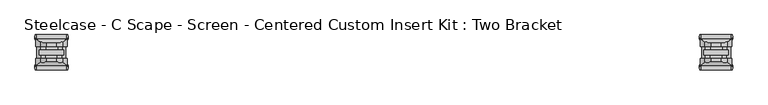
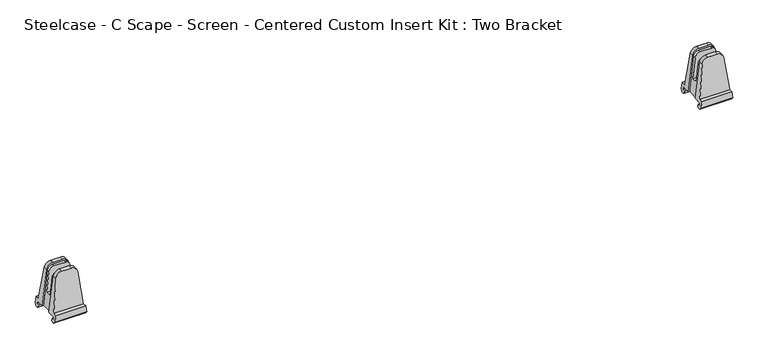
"""IFC4 building model written with IfcOpenShell, lengths in millimetres: furniture geometry, Steelcase - C Scape - Screen - Centered Custom Insert Kit : Two Bracket."""

from ifc_helpers import new_model, si_unit, frame, origin, place, context, project, spatial, circle_curve, ellipse_curve, source, transform, mapped, element, save
from ifc_brep_helpers import plane_surface, cylinder_surface, advanced_brep


def steelcase_c_scape_screen_centered_custom_insert_kit_two_89955183(model_context):
    return source(origin(), model_context, "Body", "AdvancedBrep", [
        advanced_brep(
        [(1133.6649563, -3.1752569, 793.5976353), (1141.2687419, -3.1752569, 793.5976353), (1148.9149668, -3.1752569, 793.5976353), (1148.9149668, 3.17474, 793.5976353), (1141.2687419, 3.17474, 793.5976353), (1133.6649563, 3.17474, 793.5976353), (1123.3537645, -3.1752569, 784.4759275), (1115.9101946, -3.1752569, 723.9), (1117.9940991, -3.1752569, 723.9), (1124.2526704, -3.1752569, 783.4463283), (1132.2545253, -3.1752569, 790.6512308), (1151.8524021, -3.1752569, 790.6512308), (1158.1679246, -3.1752569, 784.9620449), (1164.5570489, -3.1752569, 723.9), (1166.6697285, -3.1752569, 723.9), (1159.2261585, -3.1752569, 784.4759275), (1115.9101946, 10.1600734, 723.9), (1166.6697285, 10.1600734, 723.9), (1164.5570489, -22.2252569, 723.9), (1166.6697285, -22.2250614, 723.9), (1166.6697285, -35.5603917, 723.9), (1115.9101946, -35.5603917, 723.9), (1115.9101946, -22.2250614, 723.9), (1117.9940991, -22.2250614, 723.9), (1115.4415467, 10.1600734, 720.086134), (1167.1383764, 10.1600734, 720.086134), (1115.4415467, 6.7312129, 720.086134), (1167.1383764, 6.7312129, 720.086134), (1114.9109536, 6.7312129, 715.7681562), (1167.6689695, 6.7312129, 715.7681562), (1114.7003055, 9.1438564, 714.375), (1167.8371783, 9.1438564, 714.375), (1114.7397626, 11.8111354, 714.375), (1167.8371783, 11.8111354, 714.375), (1115.2079371, 15.6202052, 718.1850145), (1167.3719859, 15.6202052, 718.1850145), (1116.5562753, 15.6202052, 729.1578186), (1166.0236478, 15.6202052, 729.1578186), (1116.5562753, 8.8135415, 729.1578186), (1166.0236478, 8.8135415, 729.1578186), (1123.3537645, 3.9729344, 784.4759275), (1159.2261585, 3.9729344, 784.4759275), (1116.5562753, -34.2138598, 729.1578186), (1166.0236478, -34.2138598, 729.1578186), (1159.2261585, -29.3732527, 784.4759275), (1148.9149668, -28.5750583, 793.5976353), (1141.2687419, -28.5750583, 793.5976353), (1133.6649563, -28.5750583, 793.5976353), (1123.3537645, -29.3732527, 784.4759275), (1116.5562753, -41.0205235, 729.1578186), (1166.0236478, -41.0205235, 729.1578186), (1115.2079371, -41.0205235, 718.1850145), (1167.3719859, -41.0205235, 718.1850145), (1114.7003055, -37.2114537, 714.375), (1167.8371783, -37.2114537, 714.375), (1114.7397626, -34.5441746, 714.375), (1167.8371783, -34.5441746, 714.375), (1114.9109536, -32.1315312, 715.7681562), (1167.6689695, -32.1315312, 715.7681562), (1115.4415467, -32.1315312, 720.086134), (1167.1383764, -32.1315312, 720.086134), (1115.4415467, -35.5603917, 720.086134), (1167.1383764, -35.5603917, 720.086134), (1133.6649563, -22.2250614, 793.5976353), (1141.2687419, -22.2250614, 793.5976353), (1148.9149668, -22.2250614, 793.5976353), (1159.2261585, -22.2250614, 784.4759275), (1158.7100885, -22.2250614, 779.780484), (1150.9284113, -22.2250614, 786.79042), (1131.401828, -22.2250614, 786.79042), (1123.8935976, -22.2250614, 780.0299789), (1123.3537645, -22.2250614, 784.4759275), (1131.401828, -17.4500569, 786.79042), (1150.9284113, -17.4500569, 786.79042), (1158.7100885, -17.4500569, 779.780484), (1161.9950426, -17.4500569, 748.3855694), (1120.5676361, -17.4500569, 748.3855694), (1123.8935976, -17.4500569, 780.0299789), (1120.5676361, -7.9504569, 748.3855694), (1124.2526704, -7.9504569, 783.4463283), (1158.1679246, -7.9504569, 784.9620449), (1161.9950426, -7.9504569, 748.3855694), (1132.2545253, -7.9504569, 790.6512308), (1151.8524021, -7.9504569, 790.6512308)],
        [
            (0, 1),
            (1, 2),
            (2, 3),
            (3, 4),
            (4, 5),
            (5, 0),
            (0, 6, circle_curve(frame((1133.6649563, -3.1752569, 783.2088883), z_axis=(0.0, -1.0, 0.0), x_axis=(-1.0, 0.0, 0.0)), 10.388747)),
            (6, 7),
            (7, 8),
            (8, 9),
            (9, 10, circle_curve(frame((1132.2545253, -3.1752569, 782.6052995), z_axis=(0.0, 1.0, 0.0), x_axis=(1.0, 0.0, 0.0)), 8.0459313)),
            (10, 11),
            (11, 12, circle_curve(frame((1151.8524021, -3.1752569, 784.3012308), z_axis=(0.0, 1.0, 0.0), x_axis=(1.0, 0.0, 0.0)), 6.35)),
            (12, 13),
            (13, 14),
            (14, 15),
            (15, 2, circle_curve(frame((1148.9149668, -3.1752569, 783.2088883), z_axis=(0.0, -1.0, 0.0), x_axis=(1.0, 0.0, 0.0)), 10.388747)),
            (16, 17),
            (17, 14),
            (13, 18),
            (18, 19),
            (19, 20),
            (20, 21),
            (21, 22),
            (22, 23),
            (23, 8),
            (7, 16),
            (16, 24),
            (24, 25),
            (25, 17),
            (24, 26),
            (26, 27),
            (27, 25),
            (26, 28),
            (28, 29),
            (29, 27),
            (30, 31),
            (31, 29),
            (28, 30),
            (30, 32),
            (32, 33),
            (33, 31),
            (32, 34),
            (34, 35),
            (35, 33),
            (34, 36),
            (36, 37),
            (37, 35),
            (36, 38),
            (38, 39),
            (39, 37),
            (38, 40),
            (40, 5, ellipse_curve(frame((1133.6649563, 4.0838066, 783.2088883), z_axis=(0.0, 0.9961932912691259, 0.08717182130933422), x_axis=(0.0, 0.08717182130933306, -0.9961932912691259)), 10.428445, 10.388747)),
            (3, 41, ellipse_curve(frame((1148.9149668, 4.0838066, 783.2088883), z_axis=(0.0, 0.9961932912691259, 0.08717182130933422), x_axis=(0.0, 0.08717182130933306, -0.9961932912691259)), 10.428445, 10.388747)),
            (41, 39),
            (42, 43),
            (43, 44),
            (44, 45, ellipse_curve(frame((1148.9149668, -29.4841248, 783.2088883), z_axis=(0.0, -0.9961932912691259, 0.08717182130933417), x_axis=(0.0, 0.08717182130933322, 0.996193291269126)), 10.428445, 10.388747)),
            (45, 46),
            (46, 47),
            (47, 48, ellipse_curve(frame((1133.6649563, -29.4841248, 783.2088883), z_axis=(0.0, -0.9961932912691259, 0.08717182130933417), x_axis=(0.0, 0.08717182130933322, 0.996193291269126)), 10.428445, 10.388747)),
            (48, 42),
            (42, 49),
            (49, 50),
            (50, 43),
            (49, 51),
            (51, 52),
            (52, 50),
            (53, 54),
            (54, 52),
            (51, 53),
            (53, 55),
            (55, 56),
            (56, 54),
            (55, 57),
            (57, 58),
            (58, 56),
            (57, 59),
            (59, 60),
            (60, 58),
            (59, 61),
            (61, 62),
            (62, 60),
            (61, 21),
            (20, 62),
            (63, 64),
            (64, 65),
            (65, 66, circle_curve(frame((1148.9149668, -22.2250614, 783.2088883), z_axis=(0.0, 1.0, 0.0), x_axis=(1.0, 0.0, 0.0)), 10.388747)),
            (66, 19),
            (18, 67),
            (67, 68, circle_curve(frame((1150.9284113, -22.2250614, 778.9662613), z_axis=(0.0, -1.0, 0.0), x_axis=(1.0, 0.0, 0.0)), 7.8241587)),
            (68, 69),
            (69, 70, circle_curve(frame((1131.401828, -22.2250614, 779.2408321), z_axis=(0.0, -1.0, 0.0), x_axis=(1.0, 0.0, 0.0)), 7.5495878)),
            (70, 23),
            (22, 71),
            (71, 63, circle_curve(frame((1133.6649563, -22.2250614, 783.2088883), z_axis=(0.0, 1.0, 0.0), x_axis=(-1.0, 0.0, 0.0)), 10.388747)),
            (45, 65),
            (63, 47),
            (6, 40),
            (48, 71),
            (15, 41),
            (44, 66),
            (72, 73),
            (73, 74, circle_curve(frame((1150.9284113, -17.4500569, 778.9662613), z_axis=(0.0, 1.0, 0.0), x_axis=(1.0, 0.0, 0.0)), 7.8241587)),
            (74, 75),
            (75, 76),
            (76, 77),
            (77, 72, circle_curve(frame((1131.401828, -17.4500569, 779.2408321), z_axis=(0.0, 1.0, 0.0), x_axis=(1.0, 0.0, 0.0)), 7.5495878)),
            (77, 70),
            (69, 72),
            (76, 78),
            (78, 79),
            (79, 9),
            (12, 80),
            (80, 81),
            (81, 75),
            (74, 67),
            (73, 68),
            (82, 79, circle_curve(frame((1132.2545253, -7.9504569, 782.6052995), z_axis=(0.0, -1.0, 0.0), x_axis=(1.0, 0.0, 0.0)), 8.0459313)),
            (78, 81),
            (80, 83, circle_curve(frame((1151.8524021, -7.9504569, 784.3012308), z_axis=(0.0, -1.0, 0.0), x_axis=(1.0, 0.0, 0.0)), 6.35)),
            (83, 82),
            (82, 10),
            (11, 83),
        ],
        [
            plane_surface(frame((1167.8371783, 3.17474, 793.5976353), z_axis=(0.0, 0.0, 1.0), x_axis=(-1.0, 0.0, 0.0))),
            plane_surface(frame((1167.8371783, -3.1752569, 793.5976353), z_axis=(0.0, -1.0, 0.0), x_axis=(-1.0, 0.0, 0.0))),
            plane_surface(frame((1167.8371783, -3.1752569, 723.9), z_axis=(0.0, 0.0, -1.0), x_axis=(-1.0, 0.0, 0.0))),
            plane_surface(frame((1167.8371783, 10.1600734, 723.9), z_axis=(0.0, -1.0, 0.0), x_axis=(-1.0, 0.0, 0.0))),
            plane_surface(frame((1167.8371783, 10.1600734, 720.086134), z_axis=(0.0, 0.0, 1.0), x_axis=(-1.0, 0.0, 0.0))),
            plane_surface(frame((1167.8371783, 6.7312129, 720.086134), z_axis=(0.0, -1.0, 0.0), x_axis=(-1.0, 0.0, 0.0))),
            plane_surface(frame((1167.8371783, 6.7312129, 715.7681562), z_axis=(0.0, -0.5000581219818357, -0.8659918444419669), x_axis=(-1.0, 0.0, 0.0))),
            plane_surface(frame((1167.8371783, 9.1438564, 714.375), z_axis=(0.0, 0.0, -1.0), x_axis=(-1.0, 0.0, 0.0))),
            plane_surface(frame((1167.8371783, 11.8111354, 714.375), z_axis=(0.0, 0.7071944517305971, -0.7070190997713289), x_axis=(-1.0, 0.0, 0.0))),
            plane_surface(frame((1167.8371783, 15.6202052, 718.1850145), z_axis=(0.0, 1.0, 0.0), x_axis=(-1.0, 0.0, 0.0))),
            plane_surface(frame((1167.8371783, 15.6202052, 729.1578186), z_axis=(0.0, 0.0, 1.0), x_axis=(-1.0, 0.0, 0.0))),
            plane_surface(frame((1167.8371783, 8.8135415, 729.1578186), z_axis=(0.0, 0.9961932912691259, 0.08717182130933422), x_axis=(-1.0, 0.0, 0.0))),
            plane_surface(frame((1167.8371783, -28.5750583, 793.5976353), z_axis=(0.0, -0.9961932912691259, 0.08717182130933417), x_axis=(-1.0, 0.0, 0.0))),
            plane_surface(frame((1167.8371783, -34.2138598, 729.1578186), z_axis=(0.0, 0.0, 1.0), x_axis=(-1.0, 0.0, 0.0))),
            plane_surface(frame((1167.8371783, -41.0205235, 729.1578186), z_axis=(0.0, -1.0, 0.0), x_axis=(-1.0, 0.0, 0.0))),
            plane_surface(frame((1167.8371783, -41.0205235, 718.1850145), z_axis=(0.0, -0.7071944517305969, -0.707019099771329), x_axis=(-1.0, 0.0, 0.0))),
            plane_surface(frame((1167.8371783, -37.2114537, 714.375), z_axis=(0.0, 0.0, -1.0), x_axis=(-1.0, 0.0, 0.0))),
            plane_surface(frame((1167.8371783, -34.5441746, 714.375), z_axis=(0.0, 0.5000581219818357, -0.8659918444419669), x_axis=(-1.0, 0.0, 0.0))),
            plane_surface(frame((1167.8371783, -32.1315312, 715.7681562), z_axis=(0.0, 1.0, 0.0), x_axis=(-1.0, 0.0, 0.0))),
            plane_surface(frame((1167.8371783, -32.1315312, 720.086134), z_axis=(0.0, 0.0, 1.0), x_axis=(-1.0, 0.0, 0.0))),
            plane_surface(frame((1167.8371783, -35.5603917, 720.086134), z_axis=(0.0, 1.0, 0.0), x_axis=(-1.0, 0.0, 0.0))),
            plane_surface(frame((1167.8371783, -22.2250614, 723.9), z_axis=(0.0, 1.0, 0.0), x_axis=(-1.0, 0.0, 0.0))),
            plane_surface(frame((1167.8371783, -22.2250614, 793.5976353), z_axis=(0.0, 0.0, 1.0), x_axis=(-1.0, 0.0, 0.0))),
            plane_surface(frame((1114.7397626, -43.2064559, 714.375), z_axis=(-0.9925346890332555, 0.0, 0.12196266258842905), x_axis=(0.0, 1.0, 0.0))),
            cylinder_surface(frame((1133.6649563, 17.5208706, 783.2088883), z_axis=(0.0, 1.0, 0.0), x_axis=(-1.0, 0.0, 0.0)), 10.388747),
            cylinder_surface(frame((1148.9149668, 17.5208706, 783.2088883), z_axis=(0.0, 1.0, 0.0), x_axis=(1.0, 0.0, 0.0)), 10.388747),
            plane_surface(frame((1159.2261585, -43.2064559, 784.4759275), z_axis=(0.9925346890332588, 0.0, 0.12196266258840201), x_axis=(0.0, 1.0, 0.0))),
            plane_surface(frame((1138.9514158, -17.4500569, 779.2408321), z_axis=(0.0, 1.0, 0.0), x_axis=(0.0, 0.0, -1.0))),
            cylinder_surface(frame((1131.401828, -17.4500569, 779.2408321), z_axis=(0.0, -1.0, 0.0), x_axis=(1.0, 0.0, 0.0)), 7.5495878),
            plane_surface(frame((1123.8935976, -22.2252569, 780.0299789), z_axis=(-0.9945218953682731, 0.0, 0.10452846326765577), x_axis=(0.0, 1.0, 0.0))),
            plane_surface(frame((1164.5570489, -22.2252569, 723.9), z_axis=(0.9945704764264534, 0.0, 0.10406520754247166), x_axis=(0.0, 1.0, 0.0))),
            cylinder_surface(frame((1150.9284113, -17.4500569, 778.9662613), z_axis=(0.0, -1.0, 0.0), x_axis=(1.0, 0.0, 0.0)), 7.8241587),
            plane_surface(frame((1150.9284113, -22.2252569, 786.79042), z_axis=(0.0, 0.0, 1.0), x_axis=(0.0, 1.0, 0.0))),
            plane_surface(frame((1140.3004566, -7.9504569, 782.6052995), z_axis=(0.0, -1.0, 0.0), x_axis=(0.0, 0.0, 1.0))),
            cylinder_surface(frame((1132.2545253, -3.1752569, 782.6052995), z_axis=(0.0, -1.0, 0.0), x_axis=(1.0, 0.0, 0.0)), 8.0459313),
            cylinder_surface(frame((1151.8524021, -3.1752569, 784.3012308), z_axis=(0.0, -1.0, 0.0), x_axis=(1.0, 0.0, 0.0)), 6.35),
            plane_surface(frame((1151.8524021, -7.9504569, 790.6512308), z_axis=(0.0, 0.0, 1.0), x_axis=(0.0, 1.0, 0.0))),
            plane_surface(frame((1161.9950426, -17.4500569, 748.3855694), z_axis=(0.0, 0.0, 1.0), x_axis=(0.0, 1.0, 0.0))),
        ],
        [
            (0, [[1, 2, 3, 4, 5, 6]]),
            (1, [[-1, 7, 8, 9, 10, 11, 12, 13, 14, 15, 16, 17, -2]]),
            (2, [[18, 19, -15, 20, 21, 22, 23, 24, 25, 26, -9, 27]]),
            (3, [[-18, 28, 29, 30]]),
            (4, [[-29, 31, 32, 33]]),
            (5, [[-32, 34, 35, 36]]),
            (6, [[37, 38, -35, 39]]),
            (7, [[-37, 40, 41, 42]]),
            (8, [[-41, 43, 44, 45]]),
            (9, [[-44, 46, 47, 48]]),
            (10, [[-47, 49, 50, 51]]),
            (11, [[-50, 52, 53, -5, -4, 54, 55]]),
            (12, [[56, 57, 58, 59, 60, 61, 62]]),
            (13, [[-56, 63, 64, 65]]),
            (14, [[-64, 66, 67, 68]]),
            (15, [[69, 70, -67, 71]]),
            (16, [[-69, 72, 73, 74]]),
            (17, [[-73, 75, 76, 77]]),
            (18, [[-76, 78, 79, 80]]),
            (19, [[-79, 81, 82, 83]]),
            (20, [[-82, 84, -23, 85]]),
            (21, [[86, 87, 88, 89, -21, 90, 91, 92, 93, 94, -25, 95, 96]]),
            (22, [[-59, 97, -87, -86, 98, -60]]),
            (23, [[99, -52, -49, -46, -43, -40, -39, -34, -31, -28, -27, -8]]),
            (23, [[100, -95, -24, -84, -81, -78, -75, -72, -71, -66, -63, -62]]),
            (24, [[-99, -7, -6, -53]]),
            (24, [[-100, -61, -98, -96]]),
            (25, [[101, -54, -3, -17]]),
            (25, [[102, -88, -97, -58]]),
            (26, [[-101, -16, -19, -30, -33, -36, -38, -42, -45, -48, -51, -55]]),
            (26, [[-102, -57, -65, -68, -70, -74, -77, -80, -83, -85, -22, -89]]),
            (27, [[103, 104, 105, 106, 107, 108]]),
            (28, [[-108, 109, -93, 110]]),
            (29, [[-109, -107, 111, 112, 113, -10, -26, -94]]),
            (30, [[-20, -14, 114, 115, 116, -105, 117, -90]]),
            (31, [[-104, 118, -91, -117]]),
            (32, [[-103, -110, -92, -118]]),
            (33, [[119, -112, 120, -115, 121, 122]]),
            (34, [[-119, 123, -11, -113]]),
            (35, [[-121, -114, -13, 124]]),
            (36, [[-122, -124, -12, -123]]),
            (37, [[-111, -106, -116, -120]]),
        ],
    ),
        advanced_brep(
        [(67.0173627, -3.1752569, 793.5976353), (74.6211483, -3.1752569, 793.5976353), (82.2673732, -3.1752569, 793.5976353), (82.2673732, 3.17474, 793.5976353), (74.6211483, 3.17474, 793.5976353), (67.0173627, 3.17474, 793.5976353), (56.706171, -3.1752569, 784.4759275), (49.262601, -3.1752569, 723.9), (51.3465055, -3.1752569, 723.9), (57.6050768, -3.1752569, 783.4463283), (65.6069317, -3.1752569, 790.6512308), (85.2048085, -3.1752569, 790.6512308), (91.520331, -3.1752569, 784.9620449), (97.9094553, -3.1752569, 723.9), (100.0221349, -3.1752569, 723.9), (92.578565, -3.1752569, 784.4759275), (49.262601, 10.1600734, 723.9), (100.0221349, 10.1600734, 723.9), (97.9094553, -22.2252569, 723.9), (100.0221349, -22.2250614, 723.9), (100.0221349, -35.5603917, 723.9), (49.262601, -35.5603917, 723.9), (49.262601, -22.2250614, 723.9), (51.3465055, -22.2250614, 723.9), (48.7939531, 10.1600734, 720.086134), (100.4907828, 10.1600734, 720.086134), (48.7939531, 6.7312129, 720.086134), (100.4907828, 6.7312129, 720.086134), (48.26336, 6.7312129, 715.7681562), (101.0213759, 6.7312129, 715.7681562), (48.0527119, 9.1438564, 714.375), (101.1895848, 9.1438564, 714.375), (48.092169, 11.8111354, 714.375), (101.1895848, 11.8111354, 714.375), (48.5603436, 15.6202052, 718.1850145), (100.7243923, 15.6202052, 718.1850145), (49.9086817, 15.6202052, 729.1578186), (99.3760542, 15.6202052, 729.1578186), (49.9086817, 8.8135415, 729.1578186), (99.3760542, 8.8135415, 729.1578186), (56.706171, 3.9729344, 784.4759275), (92.578565, 3.9729344, 784.4759275), (49.9086817, -34.2138598, 729.1578186), (99.3760542, -34.2138598, 729.1578186), (92.578565, -29.3732527, 784.4759275), (82.2673732, -28.5750583, 793.5976353), (74.6211483, -28.5750583, 793.5976353), (67.0173627, -28.5750583, 793.5976353), (56.706171, -29.3732527, 784.4759275), (49.9086817, -41.0205235, 729.1578186), (99.3760542, -41.0205235, 729.1578186), (48.5603436, -41.0205235, 718.1850145), (100.7243923, -41.0205235, 718.1850145), (48.0527119, -37.2114537, 714.375), (101.1895848, -37.2114537, 714.375), (48.092169, -34.5441746, 714.375), (101.1895848, -34.5441746, 714.375), (48.26336, -32.1315312, 715.7681562), (101.0213759, -32.1315312, 715.7681562), (48.7939531, -32.1315312, 720.086134), (100.4907828, -32.1315312, 720.086134), (48.7939531, -35.5603917, 720.086134), (100.4907828, -35.5603917, 720.086134), (67.0173627, -22.2250614, 793.5976353), (74.6211483, -22.2250614, 793.5976353), (82.2673732, -22.2250614, 793.5976353), (92.578565, -22.2250614, 784.4759275), (92.0624949, -22.2250614, 779.780484), (84.2808177, -22.2250614, 786.79042), (64.7542344, -22.2250614, 786.79042), (57.246004, -22.2250614, 780.0299789), (56.706171, -22.2250614, 784.4759275), (64.7542344, -17.4500569, 786.79042), (84.2808177, -17.4500569, 786.79042), (92.0624949, -17.4500569, 779.780484), (95.347449, -17.4500569, 748.3855694), (53.9200426, -17.4500569, 748.3855694), (57.246004, -17.4500569, 780.0299789), (53.9200426, -7.9504569, 748.3855694), (57.6050768, -7.9504569, 783.4463283), (91.520331, -7.9504569, 784.9620449), (95.347449, -7.9504569, 748.3855694), (65.6069317, -7.9504569, 790.6512308), (85.2048085, -7.9504569, 790.6512308)],
        [
            (0, 1),
            (1, 2),
            (2, 3),
            (3, 4),
            (4, 5),
            (5, 0),
            (0, 6, circle_curve(frame((67.0173627, -3.1752569, 783.2088883), z_axis=(0.0, -1.0, 0.0), x_axis=(-1.0, 0.0, 0.0)), 10.388747)),
            (6, 7),
            (7, 8),
            (8, 9),
            (9, 10, circle_curve(frame((65.6069317, -3.1752569, 782.6052995), z_axis=(0.0, 1.0, 0.0), x_axis=(1.0, 0.0, 0.0)), 8.0459313)),
            (10, 11),
            (11, 12, circle_curve(frame((85.2048085, -3.1752569, 784.3012308), z_axis=(0.0, 1.0, 0.0), x_axis=(1.0, 0.0, 0.0)), 6.35)),
            (12, 13),
            (13, 14),
            (14, 15),
            (15, 2, circle_curve(frame((82.2673732, -3.1752569, 783.2088883), z_axis=(0.0, -1.0, 0.0), x_axis=(1.0, 0.0, 0.0)), 10.388747)),
            (16, 17),
            (17, 14),
            (13, 18),
            (18, 19),
            (19, 20),
            (20, 21),
            (21, 22),
            (22, 23),
            (23, 8),
            (7, 16),
            (16, 24),
            (24, 25),
            (25, 17),
            (24, 26),
            (26, 27),
            (27, 25),
            (26, 28),
            (28, 29),
            (29, 27),
            (30, 31),
            (31, 29),
            (28, 30),
            (30, 32),
            (32, 33),
            (33, 31),
            (32, 34),
            (34, 35),
            (35, 33),
            (34, 36),
            (36, 37),
            (37, 35),
            (36, 38),
            (38, 39),
            (39, 37),
            (38, 40),
            (40, 5, ellipse_curve(frame((67.0173627, 4.0838066, 783.2088883), z_axis=(0.0, 0.9961932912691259, 0.08717182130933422), x_axis=(0.0, 0.08717182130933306, -0.9961932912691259)), 10.428445, 10.388747)),
            (3, 41, ellipse_curve(frame((82.2673732, 4.0838066, 783.2088883), z_axis=(0.0, 0.9961932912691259, 0.08717182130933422), x_axis=(0.0, 0.08717182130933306, -0.9961932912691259)), 10.428445, 10.388747)),
            (41, 39),
            (42, 43),
            (43, 44),
            (44, 45, ellipse_curve(frame((82.2673732, -29.4841248, 783.2088883), z_axis=(0.0, -0.9961932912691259, 0.08717182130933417), x_axis=(0.0, 0.08717182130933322, 0.996193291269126)), 10.428445, 10.388747)),
            (45, 46),
            (46, 47),
            (47, 48, ellipse_curve(frame((67.0173627, -29.4841248, 783.2088883), z_axis=(0.0, -0.9961932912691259, 0.08717182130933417), x_axis=(0.0, 0.08717182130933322, 0.996193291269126)), 10.428445, 10.388747)),
            (48, 42),
            (42, 49),
            (49, 50),
            (50, 43),
            (49, 51),
            (51, 52),
            (52, 50),
            (53, 54),
            (54, 52),
            (51, 53),
            (53, 55),
            (55, 56),
            (56, 54),
            (55, 57),
            (57, 58),
            (58, 56),
            (57, 59),
            (59, 60),
            (60, 58),
            (59, 61),
            (61, 62),
            (62, 60),
            (61, 21),
            (20, 62),
            (63, 64),
            (64, 65),
            (65, 66, circle_curve(frame((82.2673732, -22.2250614, 783.2088883), z_axis=(0.0, 1.0, 0.0), x_axis=(1.0, 0.0, 0.0)), 10.388747)),
            (66, 19),
            (18, 67),
            (67, 68, circle_curve(frame((84.2808177, -22.2250614, 778.9662613), z_axis=(0.0, -1.0, 0.0), x_axis=(1.0, 0.0, 0.0)), 7.8241587)),
            (68, 69),
            (69, 70, circle_curve(frame((64.7542344, -22.2250614, 779.2408321), z_axis=(0.0, -1.0, 0.0), x_axis=(1.0, 0.0, 0.0)), 7.5495878)),
            (70, 23),
            (22, 71),
            (71, 63, circle_curve(frame((67.0173627, -22.2250614, 783.2088883), z_axis=(0.0, 1.0, 0.0), x_axis=(-1.0, 0.0, 0.0)), 10.388747)),
            (45, 65),
            (63, 47),
            (6, 40),
            (48, 71),
            (15, 41),
            (44, 66),
            (72, 73),
            (73, 74, circle_curve(frame((84.2808177, -17.4500569, 778.9662613), z_axis=(0.0, 1.0, 0.0), x_axis=(1.0, 0.0, 0.0)), 7.8241587)),
            (74, 75),
            (75, 76),
            (76, 77),
            (77, 72, circle_curve(frame((64.7542344, -17.4500569, 779.2408321), z_axis=(0.0, 1.0, 0.0), x_axis=(1.0, 0.0, 0.0)), 7.5495878)),
            (77, 70),
            (69, 72),
            (76, 78),
            (78, 79),
            (79, 9),
            (12, 80),
            (80, 81),
            (81, 75),
            (74, 67),
            (73, 68),
            (82, 79, circle_curve(frame((65.6069317, -7.9504569, 782.6052995), z_axis=(0.0, -1.0, 0.0), x_axis=(1.0, 0.0, 0.0)), 8.0459313)),
            (78, 81),
            (80, 83, circle_curve(frame((85.2048085, -7.9504569, 784.3012308), z_axis=(0.0, -1.0, 0.0), x_axis=(1.0, 0.0, 0.0)), 6.35)),
            (83, 82),
            (82, 10),
            (11, 83),
        ],
        [
            plane_surface(frame((101.1895848, 3.17474, 793.5976353), z_axis=(0.0, 0.0, 1.0), x_axis=(-1.0, 0.0, 0.0))),
            plane_surface(frame((101.1895848, -3.1752569, 793.5976353), z_axis=(0.0, -1.0, 0.0), x_axis=(-1.0, 0.0, 0.0))),
            plane_surface(frame((101.1895848, -3.1752569, 723.9), z_axis=(0.0, 0.0, -1.0), x_axis=(-1.0, 0.0, 0.0))),
            plane_surface(frame((101.1895848, 10.1600734, 723.9), z_axis=(0.0, -1.0, 0.0), x_axis=(-1.0, 0.0, 0.0))),
            plane_surface(frame((101.1895848, 10.1600734, 720.086134), z_axis=(0.0, 0.0, 1.0), x_axis=(-1.0, 0.0, 0.0))),
            plane_surface(frame((101.1895848, 6.7312129, 720.086134), z_axis=(0.0, -1.0, 0.0), x_axis=(-1.0, 0.0, 0.0))),
            plane_surface(frame((101.1895848, 6.7312129, 715.7681562), z_axis=(0.0, -0.5000581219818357, -0.8659918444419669), x_axis=(-1.0, 0.0, 0.0))),
            plane_surface(frame((101.1895848, 9.1438564, 714.375), z_axis=(0.0, 0.0, -1.0), x_axis=(-1.0, 0.0, 0.0))),
            plane_surface(frame((101.1895848, 11.8111354, 714.375), z_axis=(0.0, 0.7071944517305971, -0.7070190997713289), x_axis=(-1.0, 0.0, 0.0))),
            plane_surface(frame((101.1895848, 15.6202052, 718.1850145), z_axis=(0.0, 1.0, 0.0), x_axis=(-1.0, 0.0, 0.0))),
            plane_surface(frame((101.1895848, 15.6202052, 729.1578186), z_axis=(0.0, 0.0, 1.0), x_axis=(-1.0, 0.0, 0.0))),
            plane_surface(frame((101.1895848, 8.8135415, 729.1578186), z_axis=(0.0, 0.9961932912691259, 0.08717182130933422), x_axis=(-1.0, 0.0, 0.0))),
            plane_surface(frame((101.1895848, -28.5750583, 793.5976353), z_axis=(0.0, -0.9961932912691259, 0.08717182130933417), x_axis=(-1.0, 0.0, 0.0))),
            plane_surface(frame((101.1895848, -34.2138598, 729.1578186), z_axis=(0.0, 0.0, 1.0), x_axis=(-1.0, 0.0, 0.0))),
            plane_surface(frame((101.1895848, -41.0205235, 729.1578186), z_axis=(0.0, -1.0, 0.0), x_axis=(-1.0, 0.0, 0.0))),
            plane_surface(frame((101.1895848, -41.0205235, 718.1850145), z_axis=(0.0, -0.7071944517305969, -0.707019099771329), x_axis=(-1.0, 0.0, 0.0))),
            plane_surface(frame((101.1895848, -37.2114537, 714.375), z_axis=(0.0, 0.0, -1.0), x_axis=(-1.0, 0.0, 0.0))),
            plane_surface(frame((101.1895848, -34.5441746, 714.375), z_axis=(0.0, 0.5000581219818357, -0.8659918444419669), x_axis=(-1.0, 0.0, 0.0))),
            plane_surface(frame((101.1895848, -32.1315312, 715.7681562), z_axis=(0.0, 1.0, 0.0), x_axis=(-1.0, 0.0, 0.0))),
            plane_surface(frame((101.1895848, -32.1315312, 720.086134), z_axis=(0.0, 0.0, 1.0), x_axis=(-1.0, 0.0, 0.0))),
            plane_surface(frame((101.1895848, -35.5603917, 720.086134), z_axis=(0.0, 1.0, 0.0), x_axis=(-1.0, 0.0, 0.0))),
            plane_surface(frame((101.1895848, -22.2250614, 723.9), z_axis=(0.0, 1.0, 0.0), x_axis=(-1.0, 0.0, 0.0))),
            plane_surface(frame((101.1895848, -22.2250614, 793.5976353), z_axis=(0.0, 0.0, 1.0), x_axis=(-1.0, 0.0, 0.0))),
            plane_surface(frame((48.092169, -43.2064559, 714.375), z_axis=(-0.9925346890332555, 0.0, 0.12196266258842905), x_axis=(0.0, 1.0, 0.0))),
            cylinder_surface(frame((67.0173627, 17.5208706, 783.2088883), z_axis=(0.0, 1.0, 0.0), x_axis=(-1.0, 0.0, 0.0)), 10.388747),
            cylinder_surface(frame((82.2673732, 17.5208706, 783.2088883), z_axis=(0.0, 1.0, 0.0), x_axis=(1.0, 0.0, 0.0)), 10.388747),
            plane_surface(frame((92.578565, -43.2064559, 784.4759275), z_axis=(0.9925346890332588, 0.0, 0.12196266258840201), x_axis=(0.0, 1.0, 0.0))),
            plane_surface(frame((72.3038223, -17.4500569, 779.2408321), z_axis=(0.0, 1.0, 0.0), x_axis=(0.0, 0.0, -1.0))),
            cylinder_surface(frame((64.7542344, -17.4500569, 779.2408321), z_axis=(0.0, -1.0, 0.0), x_axis=(1.0, 0.0, 0.0)), 7.5495878),
            plane_surface(frame((57.246004, -22.2252569, 780.0299789), z_axis=(-0.9945218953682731, 0.0, 0.10452846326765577), x_axis=(0.0, 1.0, 0.0))),
            plane_surface(frame((97.9094553, -22.2252569, 723.9), z_axis=(0.9945704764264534, 0.0, 0.10406520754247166), x_axis=(0.0, 1.0, 0.0))),
            cylinder_surface(frame((84.2808177, -17.4500569, 778.9662613), z_axis=(0.0, -1.0, 0.0), x_axis=(1.0, 0.0, 0.0)), 7.8241587),
            plane_surface(frame((84.2808177, -22.2252569, 786.79042), z_axis=(0.0, 0.0, 1.0), x_axis=(0.0, 1.0, 0.0))),
            plane_surface(frame((73.652863, -7.9504569, 782.6052995), z_axis=(0.0, -1.0, 0.0), x_axis=(0.0, 0.0, 1.0))),
            cylinder_surface(frame((65.6069317, -3.1752569, 782.6052995), z_axis=(0.0, -1.0, 0.0), x_axis=(1.0, 0.0, 0.0)), 8.0459313),
            cylinder_surface(frame((85.2048085, -3.1752569, 784.3012308), z_axis=(0.0, -1.0, 0.0), x_axis=(1.0, 0.0, 0.0)), 6.35),
            plane_surface(frame((85.2048085, -7.9504569, 790.6512308), z_axis=(0.0, 0.0, 1.0), x_axis=(0.0, 1.0, 0.0))),
            plane_surface(frame((95.347449, -17.4500569, 748.3855694), z_axis=(0.0, 0.0, 1.0), x_axis=(0.0, 1.0, 0.0))),
        ],
        [
            (0, [[1, 2, 3, 4, 5, 6]]),
            (1, [[-1, 7, 8, 9, 10, 11, 12, 13, 14, 15, 16, 17, -2]]),
            (2, [[18, 19, -15, 20, 21, 22, 23, 24, 25, 26, -9, 27]]),
            (3, [[-18, 28, 29, 30]]),
            (4, [[-29, 31, 32, 33]]),
            (5, [[-32, 34, 35, 36]]),
            (6, [[37, 38, -35, 39]]),
            (7, [[-37, 40, 41, 42]]),
            (8, [[-41, 43, 44, 45]]),
            (9, [[-44, 46, 47, 48]]),
            (10, [[-47, 49, 50, 51]]),
            (11, [[-50, 52, 53, -5, -4, 54, 55]]),
            (12, [[56, 57, 58, 59, 60, 61, 62]]),
            (13, [[-56, 63, 64, 65]]),
            (14, [[-64, 66, 67, 68]]),
            (15, [[69, 70, -67, 71]]),
            (16, [[-69, 72, 73, 74]]),
            (17, [[-73, 75, 76, 77]]),
            (18, [[-76, 78, 79, 80]]),
            (19, [[-79, 81, 82, 83]]),
            (20, [[-82, 84, -23, 85]]),
            (21, [[86, 87, 88, 89, -21, 90, 91, 92, 93, 94, -25, 95, 96]]),
            (22, [[-59, 97, -87, -86, 98, -60]]),
            (23, [[99, -52, -49, -46, -43, -40, -39, -34, -31, -28, -27, -8]]),
            (23, [[100, -95, -24, -84, -81, -78, -75, -72, -71, -66, -63, -62]]),
            (24, [[-99, -7, -6, -53]]),
            (24, [[-100, -61, -98, -96]]),
            (25, [[101, -54, -3, -17]]),
            (25, [[102, -88, -97, -58]]),
            (26, [[-101, -16, -19, -30, -33, -36, -38, -42, -45, -48, -51, -55]]),
            (26, [[-102, -57, -65, -68, -70, -74, -77, -80, -83, -85, -22, -89]]),
            (27, [[103, 104, 105, 106, 107, 108]]),
            (28, [[-108, 109, -93, 110]]),
            (29, [[-109, -107, 111, 112, 113, -10, -26, -94]]),
            (30, [[-20, -14, 114, 115, 116, -105, 117, -90]]),
            (31, [[-104, 118, -91, -117]]),
            (32, [[-103, -110, -92, -118]]),
            (33, [[119, -112, 120, -115, 121, 122]]),
            (34, [[-119, 123, -11, -113]]),
            (35, [[-121, -114, -13, 124]]),
            (36, [[-122, -124, -12, -123]]),
            (37, [[-111, -106, -116, -120]]),
        ],
    ),
    ])


if __name__ == "__main__":
    model = new_model("IFC4")
    model_context = context("Model", 3, world=origin())
    ifc_project = project(units=[si_unit("LENGTHUNIT", "METRE", prefix="MILLI")], contexts=[model_context])
    site = spatial("IfcSite", under=ifc_project)
    building = spatial("IfcBuilding", under=site)
    placement = place(None, origin())
    steelcase_c_scape_screen_centered_custom_insert_kit_two_shape = steelcase_c_scape_screen_centered_custom_insert_kit_two_89955183(model_context)
    element("IfcFurniture", 1, ObjectType="Steelcase - C Scape - Screen - Centered Custom Insert Kit : Two Bracket", at=placement, inside=building, context=model_context, shape_type="MappedRepresentation", body=[
        mapped(steelcase_c_scape_screen_centered_custom_insert_kit_two_shape, transform((0.0, 0.0, 0.0), x_axis=(1.0, 0.0, 0.0), y_axis=(0.0, 1.0, 0.0), z_axis=(0.0, 0.0, 1.0))),
    ])
    save(model, "model.ifc")
